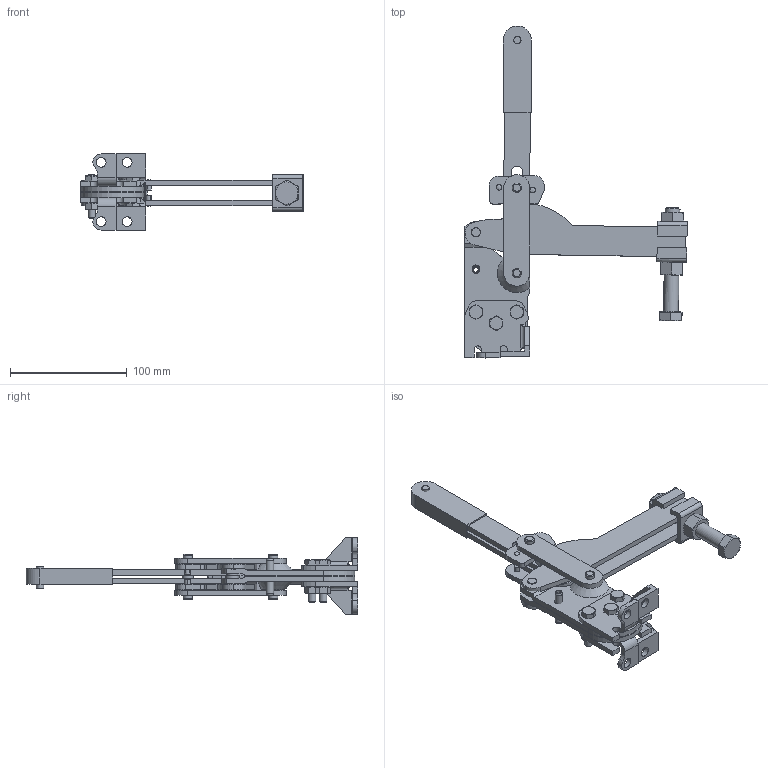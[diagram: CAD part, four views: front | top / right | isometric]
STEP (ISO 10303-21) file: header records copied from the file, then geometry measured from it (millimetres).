
FILE_DESCRIPTION((' '),'2;1');
FILE_NAME('C:\Users\Nick\Desktop\CASB-800\3D\CASB-800.stp','2015-08-14T15:53:11',(' '),(' '),' ','ACIS',' ');
FILE_SCHEMA(('CONFIG_CONTROL_DESIGN'));
Length unit declared in the file: inch
Products named in the file (35): C:\Users\Nick\Desktop\CASB-800\3D\CASB-800.stp; Body1; Body2; Body3; Body4; Body5; Body6; Body7; Body8; Body9; Body10; Body11; Body12; Body13; Body14; Body15; Body16; Body17; Body18; Body19; Body20; Body21; Body22; Body23; Body24; Body25; Body26; Body27; Body28; Body29; Body30; Body31; Body32; Body33; Body34
Assembly tree (34 placements, depth 2):
  C:\Users\Nick\Desktop\CASB-800\3D\CASB-800.stp
    Body1
    Body2
    Body3
    Body4
    Body5
    Body6
    Body7
    Body8
    Body9
    Body10
    Body11
    Body12
    Body13
    Body14
    Body15
    Body16
    Body17
    Body18
    Body19
    Body20
    Body21
    Body22
    Body23
    Body24
    Body25
    Body26
    Body27
    Body28
    Body29
    Body30
    Body31
    Body32
    Body33
    Body34
Bounding box: 190.31 x 283.97 x 65.23 mm (x, y, z)
Volume: 231316 mm3; surface area: 136522.6 mm2
Topology: 34 solids, 34 shells, 626 faces, 1515 edges, 975 vertices
Faces by surface type: plane 316, cylinder 191, cone 107, sphere 8, torus 4
Full cylindrical faces by diameter (mm): 4.724 x4, 4.762 x4, 4.978 x3, 6.248 x2, 6.35 x5, 6.401 x8, 6.426 x2, 6.604 x3, 7.772 x4, 7.899 x4, 7.976 x6, 7.988 x2, 8.026 x4, 8.382 x4, 9.398 x4, 9.474 x2, 9.525 x3, 9.576 x4, 9.601 x2, 10.592 x2, 11.1 x2, 11.112 x3, 12.7 x1, 13.106 x2, 17.145 x1
Entity records: 22897 total; most frequent: CARTESIAN_POINT 3650, DIRECTION 3122, ORIENTED_EDGE 2778, EDGE_CURVE 1389, AXIS2_PLACEMENT_3D 1252, VERTEX_POINT 955, EDGE_LOOP 852, FACE_OUTER_BOUND 626
